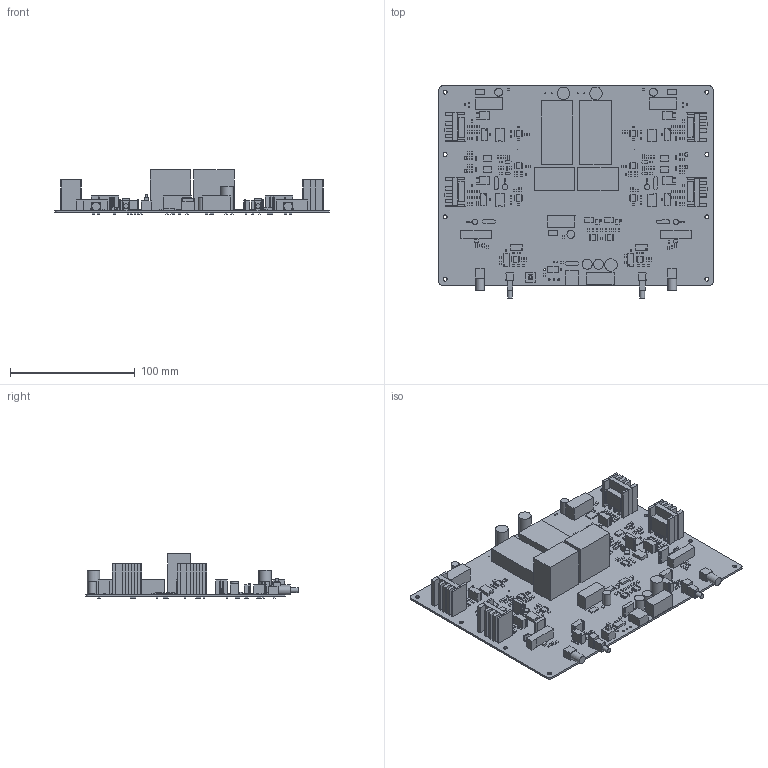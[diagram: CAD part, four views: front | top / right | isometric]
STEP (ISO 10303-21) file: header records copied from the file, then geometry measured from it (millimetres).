
FILE_DESCRIPTION(('Open CASCADE Model'),'2;1');
FILE_NAME('Open CASCADE Shape Model','2025-03-26T08:39:50',('Author'),( 'Open CASCADE'),'Open CASCADE STEP processor 7.5','Open CASCADE 7.5' ,'Unknown');
FILE_SCHEMA(('AUTOMOTIVE_DESIGN { 1 0 10303 214 1 1 1 1 }'));
Length unit declared in the file: millimetre
Products named in the file (444): PCB; Board; Open CASCADE STEP translator 7.5 1.1.1; R30; 6451782912; Extruded; C32; 6451783072; R26; 6451783232; C4; C3; D11A; 6449575248; R52A; Q4A; 6451772352; 6451772512; 6451772672; 6451772832; 6451773152; 6451773312; 6451773632; U3B; 6451777072; 6451777232; U3A; U2B; U2A; R38B; R38A; R25; R24; R24B; R24A; R23; R22; R20; R20B; R20A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
Assembly tree (811 placements, depth 4):
  PCB
    Board
      Open CASCADE STEP translator 7.5 1.1.1
    R30
      6451782912
        Extruded
    C32
      6451783072
        Extruded
    R26
      6451783232
        Extruded
    C4
      6451783232
        Extruded
    C3
      6451783232
        Extruded
    D11A
      6449575248
        Extruded
    R52A
      6451782912
        Extruded
    Q4A
      6451772352
        Extruded
      6451772512
        Extruded
      6451772672
        Extruded
      6451772832
        Extruded
      6451773152  x3
        Extruded
      6451773312
        Extruded
      6451773632  x3
        Extruded
    U3B
      6451777072  x8
        Extruded
      6451777232
        Extruded
    U3A
      6451777072  x8
        Extruded
      6451777232
        Extruded
    U2B
      6451777072  x8
        Extruded
      6451777232
        Extruded
    U2A
      6451777232
        Extruded
      6451777072  x8
        Extruded
    R38B
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Bounding box: 220 x 170.09 x 35.59 mm (x, y, z)
Volume: 180567.1 mm3; surface area: 137726.2 mm2
Topology: 440 solids, 440 shells, 3305 faces, 7275 edges, 4850 vertices
Faces by surface type: plane 3081, cylinder 224
Full cylindrical faces by diameter (mm): 0.5 x2, 0.6 x24, 0.712 x4, 0.8 x12, 0.812 x8, 0.9 x14, 1 x60, 1.1 x4, 1.2 x8, 1.4 x15, 1.5 x10, 2 x1, 3.2 x8, 3.8 x2, 4.4 x4, 6.3 x3, 7 x2, 8 x2, 10 x3
Entity records: 36646 total; most frequent: DIRECTION 5758, CARTESIAN_POINT 5048, ORIENTED_EDGE 4092, AXIS2_PLACEMENT_3D 2074, EDGE_CURVE 2046, LINE 1610, VECTOR 1610, VERTEX_POINT 1364
